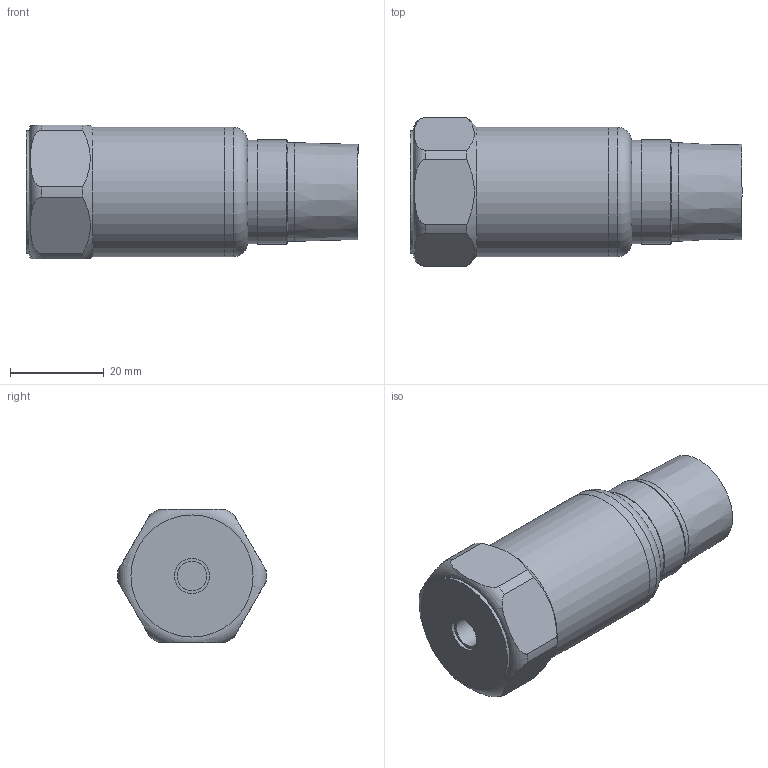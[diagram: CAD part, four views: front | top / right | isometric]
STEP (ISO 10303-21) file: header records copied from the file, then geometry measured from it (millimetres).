
FILE_DESCRIPTION(/* description */ (''),/* implementation_level */ '2;1');
FILE_NAME(/* name */ 'Z:\Engineering\Drawings\3D Library\Assemblies\Website\420 Velocity Top\HS-420XXX1201.stp',/* time_stamp */ '2023-05-03T13:51:55+01:00',/* author */ ('Ricardo.Peneda'),/* organization */ (''),/* preprocessor_version */ 'ST-DEVELOPER v18.1',/* originating_system */ 'Autodesk Inventor 2021',/* authorisation */ '');
FILE_SCHEMA (('AUTOMOTIVE_DESIGN { 1 0 10303 214 3 1 1 }'));
Length unit declared in the file: inch
Products named in the file (1): HS-420XXX1201_Shrinkwrap_1
Bounding box: 70.7 x 31.69 x 28.5 mm (x, y, z)
Volume: 17751.6 mm3; surface area: 12171.7 mm2
Topology: 3 solids, 3 shells, 53 faces, 142 edges, 104 vertices
Faces by surface type: cylinder 22, plane 21, cone 6, torus 4
Full cylindrical faces by diameter (mm): 3.241 x1, 6.3 x1, 7.5 x1, 14 x1, 18 x1, 19.95 x1, 20 x1, 21 x1, 22 x1, 22.2 x1, 23.3 x1, 25.3 x2, 26 x1, 27.5 x2
Entity records: 1967 total; most frequent: CARTESIAN_POINT 446, DIRECTION 330, ORIENTED_EDGE 284, AXIS2_PLACEMENT_3D 148, EDGE_CURVE 142, VERTEX_POINT 104, CIRCLE 94, EDGE_LOOP 66
